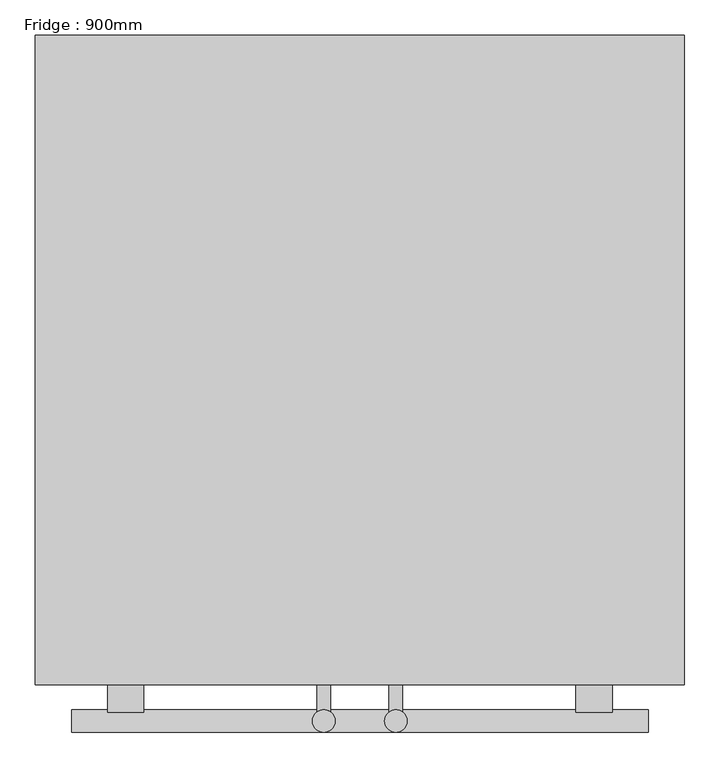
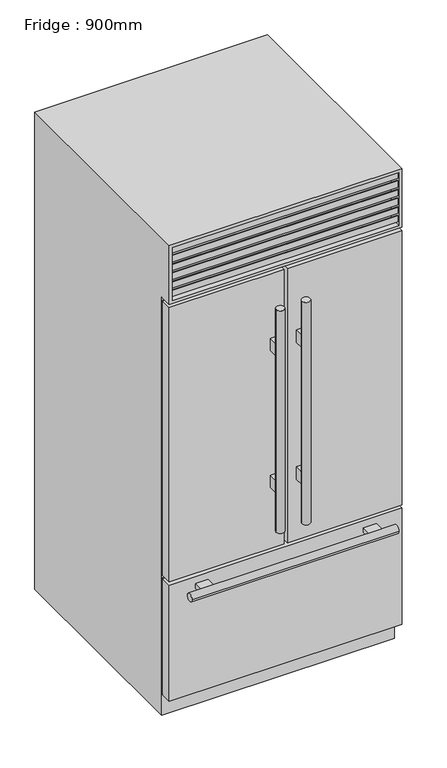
"""IFC4 building model written with IfcOpenShell, lengths in millimetres: proxy geometry, Fridge : 900mm."""

from ifc_helpers import new_model, si_unit, frame, origin, place, context, project, spatial, polyline, circle_curve, ellipse_curve, outline, extrude, faceted_brep, source, transform, mapped, element, save
from ifc_brep_helpers import plane_surface, cylinder_surface, advanced_brep


def fridge_900mm_2d12c2bd(model_context):
    return source(origin(), model_context, "Body", "SolidModel", [
        extrude(outline(polyline([(-457.2, -969.95), (-6.35, -969.95), (-6.35, -1014.4), (-457.2, -1014.4), (-457.2, -969.95)])), frame((0.0, 0.0, 584.2), z_axis=(0.0, 0.0, 1.0), x_axis=(1.0, 0.0, 0.0)), (0.0, 0.0, 1.0), 1139.825),
        extrude(outline(polyline([(6.35, -969.95), (457.2, -969.95), (457.2, -1014.4), (6.35, -1014.4), (6.35, -969.95)])), frame((0.0, 0.0, 584.2), z_axis=(0.0, 0.0, 1.0), x_axis=(1.0, 0.0, 0.0)), (0.0, 0.0, 1.0), 1139.825),
        extrude(outline(polyline([(-457.2, -969.95), (457.2, -969.95), (457.2, -1014.4), (-457.2, -1014.4), (-457.2, -969.95)])), frame((0.0, 0.0, 88.9), z_axis=(0.0, 0.0, 1.0), x_axis=(1.0, 0.0, 0.0)), (0.0, 0.0, 1.0), 482.6),
        faceted_brep([(457.2, -1014.4, 1981.2), (-457.2, -1014.4, 1981.2), (-457.2, -1014.4, 1736.725), (457.2, -1014.4, 1736.725), (444.5, -1014.4, 1968.5), (444.5, -1014.4, 1749.425), (-444.5, -1014.4, 1749.425), (-444.5, -1014.4, 1968.5), (457.2, -100.0, 1981.2), (-457.2, -100.0, 1981.2), (-457.2, -100.0, 0.0), (-457.2, -963.6, 0.0), (-457.2, -963.6, 1736.725), (457.2, -963.6, 1736.725), (457.2, -963.6, 0.0), (457.2, -100.0, 0.0), (-444.5, -963.6, 1968.5), (444.5, -963.6, 1968.5), (-444.5, -963.6, 1749.425), (444.5, -963.6, 1749.425)], [[[0, 1, 2, 3], [4, 5, 6, 7]], [[1, 0, 8, 9]], [[2, 1, 9, 10, 11, 12]], [[3, 2, 12, 13]], [[8, 0, 3, 13, 14, 15]], [[4, 7, 16, 17]], [[7, 6, 18, 16]], [[6, 5, 19, 18]], [[5, 4, 17, 19]], [[15, 14, 11, 10]], [[9, 8, 15, 10]], [[17, 16, 18, 19]], [[11, 14, 13, 12]]]),
        extrude(outline(polyline([(-963.6, 1749.425), (-1011.225, 1762.1860803), (-1011.225, 1787.5860803), (-1008.05, 1787.5860803), (-1008.05, 1764.7368938), (-963.6, 1752.8265522), (-963.6, 1749.425)])), frame((-444.5, 0.0, 0.0), z_axis=(1.0, 0.0, 0.0), x_axis=(0.0, 1.0, 0.0)), (0.0, 0.0, 1.0), 889.0),
        extrude(outline(polyline([(-963.6, 1785.6077839), (-1011.225, 1798.3688642), (-1011.225, 1823.7688642), (-1008.05, 1823.7688642), (-1008.05, 1800.9196777), (-963.6, 1789.0093361), (-963.6, 1785.6077839)])), frame((-444.5, 0.0, 0.0), z_axis=(1.0, 0.0, 0.0), x_axis=(0.0, 1.0, 0.0)), (0.0, 0.0, 1.0), 889.0),
        extrude(outline(polyline([(-963.6, 1821.7905679), (-1011.225, 1834.5516482), (-1011.225, 1859.9516482), (-1008.05, 1859.9516482), (-1008.05, 1837.1024616), (-963.6, 1825.19212), (-963.6, 1821.7905679)])), frame((-444.5, 0.0, 0.0), z_axis=(1.0, 0.0, 0.0), x_axis=(0.0, 1.0, 0.0)), (0.0, 0.0, 1.0), 889.0),
        extrude(outline(polyline([(-963.6, 1857.9733518), (-1011.225, 1870.7344321), (-1011.225, 1896.1344321), (-1008.05, 1896.1344321), (-1008.05, 1873.2852456), (-963.6, 1861.374904), (-963.6, 1857.9733518)])), frame((-444.5, 0.0, 0.0), z_axis=(1.0, 0.0, 0.0), x_axis=(0.0, 1.0, 0.0)), (0.0, 0.0, 1.0), 889.0),
        extrude(outline(polyline([(-963.6, 1894.1561358), (-1011.225, 1906.9172161), (-1011.225, 1932.3172161), (-1008.05, 1932.3172161), (-1008.05, 1909.4680295), (-963.6, 1897.5576879), (-963.6, 1894.1561358)])), frame((-444.5, 0.0, 0.0), z_axis=(1.0, 0.0, 0.0), x_axis=(0.0, 1.0, 0.0)), (0.0, 0.0, 1.0), 889.0),
        extrude(outline(polyline([(-963.6, 1930.3389197), (-1011.225, 1943.1), (-1011.225, 1968.5), (-1008.05, 1968.5), (-1008.05, 1945.6508135), (-963.6, 1933.7404719), (-963.6, 1930.3389197)])), frame((-444.5, 0.0, 0.0), z_axis=(1.0, 0.0, 0.0), x_axis=(0.0, 1.0, 0.0)), (0.0, 0.0, 1.0), 889.0),
        advanced_brep(
        [(-450.85, -963.6, 565.15), (-450.85, -969.95, 565.15), (-450.85, -969.95, 95.25), (-450.85, -963.6, 95.25), (-454.025, -969.95, 568.325), (-454.025, -963.6, 568.325), (-454.025, -963.6, 92.075), (-454.025, -969.95, 92.075), (450.85, -969.95, 95.25), (450.85, -963.6, 95.25), (454.025, -963.6, 92.075), (454.025, -969.95, 92.075), (450.85, -969.95, 565.15), (450.85, -963.6, 565.15), (454.025, -963.6, 568.325), (454.025, -969.95, 568.325)],
        [
            (0, 1),
            (1, 2),
            (2, 3),
            (3, 0),
            (4, 5, ellipse_curve(frame((-454.025, -966.775, 568.325), z_axis=(-0.7071067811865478, 0.0, -0.7071067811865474), x_axis=(-0.7071067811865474, 0.0, 0.7071067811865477)), 4.4901281, 3.175)),
            (5, 6),
            (6, 7, ellipse_curve(frame((-454.025, -966.775, 92.075), z_axis=(-0.7071067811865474, 0.0, 0.7071067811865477), x_axis=(0.7071067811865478, 0.0, 0.7071067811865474)), 4.4901281, 3.175)),
            (7, 4),
            (2, 8),
            (8, 9),
            (9, 3),
            (6, 10),
            (10, 11, ellipse_curve(frame((454.025, -966.775, 92.075), z_axis=(-0.7071067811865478, 0.0, -0.7071067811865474), x_axis=(-0.7071067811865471, 0.0, 0.7071067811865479)), 4.4901281, 3.175)),
            (11, 7),
            (8, 12),
            (12, 13),
            (13, 9),
            (10, 14),
            (14, 15, ellipse_curve(frame((454.025, -966.775, 568.325), z_axis=(0.7071067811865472, 0.0, -0.7071067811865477), x_axis=(-0.7071067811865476, 0.0, -0.7071067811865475)), 4.4901281, 3.175)),
            (15, 11),
            (12, 1),
            (0, 13),
            (5, 14),
            (4, 15),
        ],
        [
            plane_surface(frame((-450.85, -969.95, 565.15), z_axis=(1.0, 0.0, 0.0), x_axis=(0.0, 0.0, -1.0))),
            cylinder_surface(frame((-454.025, -966.775, 571.5), z_axis=(0.0, 0.0, 1.0), x_axis=(0.0, -1.0, 0.0)), 3.175),
            plane_surface(frame((-450.85, -969.95, 95.25), z_axis=(0.0, 0.0, 1.0), x_axis=(1.0, 0.0, 0.0))),
            cylinder_surface(frame((-457.2, -966.775, 92.075), z_axis=(-1.0, 0.0, 0.0), x_axis=(0.0, -1.0, 0.0)), 3.175),
            plane_surface(frame((450.85, -969.95, 95.25), z_axis=(-1.0, 0.0, 0.0), x_axis=(0.0, 0.0, 1.0))),
            cylinder_surface(frame((454.025, -966.775, 88.9), z_axis=(0.0, 0.0, -1.0), x_axis=(0.0, -1.0, 0.0)), 3.175),
            plane_surface(frame((450.85, -969.95, 565.15), z_axis=(0.0, 0.0, -1.0), x_axis=(-1.0, 0.0, 0.0))),
            plane_surface(frame((450.85, -963.6, 565.15), z_axis=(0.0, 1.0, 0.0), x_axis=(-1.0, 0.0, 0.0))),
            cylinder_surface(frame((457.2, -966.775, 568.325), z_axis=(1.0, 0.0, 0.0), x_axis=(0.0, -1.0, 0.0)), 3.175),
            plane_surface(frame((454.025, -969.95, 568.325), z_axis=(0.0, -1.0, 0.0), x_axis=(-1.0, 0.0, 0.0))),
        ],
        [
            (0, [[1, 2, 3, 4]]),
            (1, [[5, 6, 7, 8]]),
            (2, [[-3, 9, 10, 11]]),
            (3, [[-7, 12, 13, 14]]),
            (4, [[-10, 15, 16, 17]]),
            (5, [[-13, 18, 19, 20]]),
            (6, [[-16, 21, -1, 22]]),
            (7, [[23, -18, -12, -6], [-11, -17, -22, -4]]),
            (8, [[-19, -23, -5, 24]]),
            (9, [[-14, -20, -24, -8], [-21, -15, -9, -2]]),
        ],
    ),
        advanced_brep(
        [(12.7, -963.6, 1717.675), (12.7, -969.95, 1717.675), (12.7, -969.95, 590.55), (12.7, -963.6, 590.55), (9.525, -969.95, 1720.85), (9.525, -963.6, 1720.85), (9.525, -963.6, 587.375), (9.525, -969.95, 587.375), (450.85, -969.95, 590.55), (450.85, -963.6, 590.55), (454.025, -963.6, 587.375), (454.025, -969.95, 587.375), (450.85, -969.95, 1717.675), (450.85, -963.6, 1717.675), (454.025, -963.6, 1720.85), (454.025, -969.95, 1720.85)],
        [
            (0, 1),
            (1, 2),
            (2, 3),
            (3, 0),
            (4, 5, ellipse_curve(frame((9.525, -966.775, 1720.85), z_axis=(-0.7071067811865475, 0.0, -0.7071067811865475), x_axis=(-0.7071067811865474, 0.0, 0.7071067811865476)), 4.4901281, 3.175)),
            (5, 6),
            (6, 7, ellipse_curve(frame((9.525, -966.775, 587.375), z_axis=(-0.7071067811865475, 0.0, 0.7071067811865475), x_axis=(0.7071067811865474, 0.0, 0.7071067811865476)), 4.4901281, 3.175)),
            (7, 4),
            (2, 8),
            (8, 9),
            (9, 3),
            (6, 10),
            (10, 11, ellipse_curve(frame((454.025, -966.775, 587.375), z_axis=(-0.7071067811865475, 0.0, -0.7071067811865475), x_axis=(-0.7071067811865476, 0.0, 0.7071067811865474)), 4.4901281, 3.175)),
            (11, 7),
            (8, 12),
            (12, 13),
            (13, 9),
            (10, 14),
            (14, 15, ellipse_curve(frame((454.025, -966.775, 1720.85), z_axis=(0.7071067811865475, 0.0, -0.7071067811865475), x_axis=(-0.7071067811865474, 0.0, -0.7071067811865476)), 4.4901281, 3.175)),
            (15, 11),
            (12, 1),
            (0, 13),
            (5, 14),
            (4, 15),
        ],
        [
            plane_surface(frame((12.7, -969.95, 1717.675), z_axis=(1.0, 0.0, 0.0), x_axis=(0.0, 0.0, -1.0))),
            cylinder_surface(frame((9.525, -966.775, 1724.025), z_axis=(0.0, 0.0, 1.0), x_axis=(0.0, -1.0, 0.0)), 3.175),
            plane_surface(frame((12.7, -969.95, 590.55), z_axis=(0.0, 0.0, 1.0), x_axis=(1.0, 0.0, 0.0))),
            cylinder_surface(frame((6.35, -966.775, 587.375), z_axis=(-1.0, 0.0, 0.0), x_axis=(0.0, -1.0, 0.0)), 3.175),
            plane_surface(frame((450.85, -969.95, 590.55), z_axis=(-1.0, 0.0, 0.0), x_axis=(0.0, 0.0, 1.0))),
            cylinder_surface(frame((454.025, -966.775, 584.2), z_axis=(0.0, 0.0, -1.0), x_axis=(0.0, -1.0, 0.0)), 3.175),
            plane_surface(frame((450.85, -969.95, 1717.675), z_axis=(0.0, 0.0, -1.0), x_axis=(-1.0, 0.0, 0.0))),
            plane_surface(frame((450.85, -963.6, 1717.675), z_axis=(0.0, 1.0, 0.0), x_axis=(-1.0, 0.0, 0.0))),
            cylinder_surface(frame((457.2, -966.775, 1720.85), z_axis=(1.0, 0.0, 0.0), x_axis=(0.0, -1.0, 0.0)), 3.175),
            plane_surface(frame((454.025, -969.95, 1720.85), z_axis=(0.0, -1.0, 0.0), x_axis=(-1.0, 0.0, 0.0))),
        ],
        [
            (0, [[1, 2, 3, 4]]),
            (1, [[5, 6, 7, 8]]),
            (2, [[-3, 9, 10, 11]]),
            (3, [[-7, 12, 13, 14]]),
            (4, [[-10, 15, 16, 17]]),
            (5, [[-13, 18, 19, 20]]),
            (6, [[-16, 21, -1, 22]]),
            (7, [[23, -18, -12, -6], [-11, -17, -22, -4]]),
            (8, [[-19, -23, -5, 24]]),
            (9, [[-14, -20, -24, -8], [-21, -15, -9, -2]]),
        ],
    ),
        advanced_brep(
        [(-450.85, -963.6, 1717.675), (-450.85, -969.95, 1717.675), (-450.85, -969.95, 590.55), (-450.85, -963.6, 590.55), (-454.025, -969.95, 1720.85), (-454.025, -963.6, 1720.85), (-454.025, -963.6, 587.375), (-454.025, -969.95, 587.375), (-12.7, -969.95, 590.55), (-12.7, -963.6, 590.55), (-9.525, -963.6, 587.375), (-9.525, -969.95, 587.375), (-12.7, -969.95, 1717.675), (-12.7, -963.6, 1717.675), (-9.525, -963.6, 1720.85), (-9.525, -969.95, 1720.85)],
        [
            (0, 1),
            (1, 2),
            (2, 3),
            (3, 0),
            (4, 5, ellipse_curve(frame((-454.025, -966.775, 1720.85), z_axis=(-0.7071067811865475, 0.0, -0.7071067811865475), x_axis=(-0.7071067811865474, 0.0, 0.7071067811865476)), 4.4901281, 3.175)),
            (5, 6),
            (6, 7, ellipse_curve(frame((-454.025, -966.775, 587.375), z_axis=(-0.7071067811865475, 0.0, 0.7071067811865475), x_axis=(0.7071067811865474, 0.0, 0.7071067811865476)), 4.4901281, 3.175)),
            (7, 4),
            (2, 8),
            (8, 9),
            (9, 3),
            (6, 10),
            (10, 11, ellipse_curve(frame((-9.525, -966.775, 587.375), z_axis=(-0.7071067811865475, 0.0, -0.7071067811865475), x_axis=(-0.7071067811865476, 0.0, 0.7071067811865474)), 4.4901281, 3.175)),
            (11, 7),
            (8, 12),
            (12, 13),
            (13, 9),
            (10, 14),
            (14, 15, ellipse_curve(frame((-9.525, -966.775, 1720.85), z_axis=(0.7071067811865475, 0.0, -0.7071067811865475), x_axis=(-0.7071067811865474, 0.0, -0.7071067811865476)), 4.4901281, 3.175)),
            (15, 11),
            (12, 1),
            (0, 13),
            (5, 14),
            (4, 15),
        ],
        [
            plane_surface(frame((-450.85, -969.95, 1717.675), z_axis=(1.0, 0.0, 0.0), x_axis=(0.0, 0.0, -1.0))),
            cylinder_surface(frame((-454.025, -966.775, 1724.025), z_axis=(0.0, 0.0, 1.0), x_axis=(0.0, -1.0, 0.0)), 3.175),
            plane_surface(frame((-450.85, -969.95, 590.55), z_axis=(0.0, 0.0, 1.0), x_axis=(1.0, 0.0, 0.0))),
            cylinder_surface(frame((-457.2, -966.775, 587.375), z_axis=(-1.0, 0.0, 0.0), x_axis=(0.0, -1.0, 0.0)), 3.175),
            plane_surface(frame((-12.7, -969.95, 590.55), z_axis=(-1.0, 0.0, 0.0), x_axis=(0.0, 0.0, 1.0))),
            cylinder_surface(frame((-9.525, -966.775, 584.2), z_axis=(0.0, 0.0, -1.0), x_axis=(0.0, -1.0, 0.0)), 3.175),
            plane_surface(frame((-12.7, -969.95, 1717.675), z_axis=(0.0, 0.0, -1.0), x_axis=(-1.0, 0.0, 0.0))),
            plane_surface(frame((-12.7, -963.6, 1717.675), z_axis=(0.0, 1.0, 0.0), x_axis=(-1.0, 0.0, 0.0))),
            cylinder_surface(frame((-6.35, -966.775, 1720.85), z_axis=(1.0, 0.0, 0.0), x_axis=(0.0, -1.0, 0.0)), 3.175),
            plane_surface(frame((-9.525, -969.95, 1720.85), z_axis=(0.0, -1.0, 0.0), x_axis=(-1.0, 0.0, 0.0))),
        ],
        [
            (0, [[1, 2, 3, 4]]),
            (1, [[5, 6, 7, 8]]),
            (2, [[-3, 9, 10, 11]]),
            (3, [[-7, 12, 13, 14]]),
            (4, [[-10, 15, 16, 17]]),
            (5, [[-13, 18, 19, 20]]),
            (6, [[-16, 21, -1, 22]]),
            (7, [[23, -18, -12, -6], [-11, -17, -22, -4]]),
            (8, [[-19, -23, -5, 24]]),
            (9, [[-14, -20, -24, -8], [-21, -15, -9, -2]]),
        ],
    ),
        advanced_brep(
        [(-304.8, -1014.4, 542.925), (-304.8, -1014.4, 523.875), (-355.6, -1014.4, 523.875), (-355.6, -1014.4, 542.925), (304.8, -1014.4, 542.925), (355.6, -1014.4, 542.925), (355.6, -1014.4, 523.875), (304.8, -1014.4, 523.875), (-304.8, -1052.8741958, 542.925), (-304.8, -1049.6991958, 533.4), (-304.8, -1052.8741958, 523.875), (-355.6, -1052.8741958, 523.875), (-355.6, -1049.6991958, 533.4), (-355.6, -1052.8741958, 542.925), (304.8, -1052.8741958, 542.925), (355.6, -1052.8741958, 542.925), (355.6, -1049.6991958, 533.4), (355.6, -1052.8741958, 523.875), (304.8, -1052.8741958, 523.875), (304.8, -1049.6991958, 533.4), (406.4, -1081.4491958, 533.4), (406.4, -1049.6991958, 533.4), (-406.4, -1081.4491958, 533.4), (-406.4, -1049.6991958, 533.4)],
        [
            (0, 1),
            (1, 2),
            (2, 3),
            (3, 0),
            (4, 5),
            (5, 6),
            (6, 7),
            (7, 4),
            (0, 8),
            (8, 9, circle_curve(frame((-304.8, -1065.5741958, 533.4), z_axis=(-1.0, 0.0, 0.0), x_axis=(0.0, 1.0, 0.0)), 15.875)),
            (9, 10, circle_curve(frame((-304.8, -1065.5741958, 533.4), z_axis=(-1.0, 0.0, 0.0), x_axis=(0.0, 1.0, 0.0)), 15.875)),
            (10, 1),
            (10, 11),
            (11, 2),
            (11, 12, circle_curve(frame((-355.6, -1065.5741958, 533.4), z_axis=(1.0, 0.0, 0.0), x_axis=(0.0, 1.0, 0.0)), 15.875)),
            (12, 13, circle_curve(frame((-355.6, -1065.5741958, 533.4), z_axis=(1.0, 0.0, 0.0), x_axis=(0.0, 1.0, 0.0)), 15.875)),
            (13, 3),
            (13, 8),
            (4, 14),
            (14, 15),
            (15, 5),
            (15, 16, circle_curve(frame((355.6, -1065.5741958, 533.4), z_axis=(-1.0, 0.0, 0.0), x_axis=(0.0, 1.0, 0.0)), 15.875)),
            (16, 17, circle_curve(frame((355.6, -1065.5741958, 533.4), z_axis=(-1.0, 0.0, 0.0), x_axis=(0.0, 1.0, 0.0)), 15.875)),
            (17, 6),
            (17, 18),
            (18, 7),
            (18, 19, circle_curve(frame((304.8, -1065.5741958, 533.4), z_axis=(1.0, 0.0, 0.0), x_axis=(0.0, 1.0, 0.0)), 15.875)),
            (19, 14, circle_curve(frame((304.8, -1065.5741958, 533.4), z_axis=(1.0, 0.0, 0.0), x_axis=(0.0, 1.0, 0.0)), 15.875)),
            (20, 21, circle_curve(frame((406.4, -1065.5741958, 533.4), z_axis=(1.0, 0.0, 0.0), x_axis=(0.0, 1.0, 0.0)), 15.875)),
            (21, 20, circle_curve(frame((406.4, -1065.5741958, 533.4), z_axis=(1.0, 0.0, 0.0), x_axis=(0.0, 1.0, 0.0)), 15.875)),
            (22, 23, circle_curve(frame((-406.4, -1065.5741958, 533.4), z_axis=(-1.0, 0.0, 0.0), x_axis=(0.0, 1.0, 0.0)), 15.875)),
            (23, 22, circle_curve(frame((-406.4, -1065.5741958, 533.4), z_axis=(-1.0, 0.0, 0.0), x_axis=(0.0, 1.0, 0.0)), 15.875)),
            (20, 22),
            (23, 12),
            (9, 19),
            (16, 21),
        ],
        [
            plane_surface(frame((-304.8, -1014.4, 542.925), z_axis=(0.0, 1.0, 0.0), x_axis=(0.0, 0.0, -1.0))),
            plane_surface(frame((-304.8, -1014.4, 542.925), z_axis=(1.0, 0.0, 0.0), x_axis=(0.0, -1.0, 0.0))),
            plane_surface(frame((-304.8, -1014.4, 523.875), z_axis=(0.0, 0.0, -1.0), x_axis=(0.0, -1.0, 0.0))),
            plane_surface(frame((-355.6, -1014.4, 523.875), z_axis=(-1.0, 0.0, 0.0), x_axis=(0.0, -1.0, 0.0))),
            plane_surface(frame((-355.6, -1014.4, 542.925), z_axis=(0.0, 0.0, 1.0), x_axis=(0.0, -1.0, 0.0))),
            plane_surface(frame((304.8, -1014.4, 542.925), z_axis=(0.0, 0.0, 1.0), x_axis=(0.0, -1.0, 0.0))),
            plane_surface(frame((355.6, -1014.4, 542.925), z_axis=(1.0, 0.0, 0.0), x_axis=(0.0, -1.0, 0.0))),
            plane_surface(frame((355.6, -1014.4, 523.875), z_axis=(0.0, 0.0, -1.0), x_axis=(0.0, -1.0, 0.0))),
            plane_surface(frame((304.8, -1014.4, 523.875), z_axis=(-1.0, 0.0, 0.0), x_axis=(0.0, -1.0, 0.0))),
            plane_surface(frame((406.4, -1049.6991958, 533.4), z_axis=(1.0, 0.0, 0.0), x_axis=(0.0, 0.0, 1.0))),
            plane_surface(frame((-406.4, -1049.6991958, 533.4), z_axis=(-1.0, 0.0, 0.0), x_axis=(0.0, 0.0, -1.0))),
            cylinder_surface(frame((-406.4, -1065.5741958, 533.4), z_axis=(1.0, 0.0, 0.0), x_axis=(0.0, 1.0, 0.0)), 15.875),
        ],
        [
            (0, [[1, 2, 3, 4]]),
            (0, [[5, 6, 7, 8]]),
            (1, [[-1, 9, 10, 11, 12]]),
            (2, [[-2, -12, 13, 14]]),
            (3, [[-3, -14, 15, 16, 17]]),
            (4, [[-4, -17, 18, -9]]),
            (5, [[-5, 19, 20, 21]]),
            (6, [[-6, -21, 22, 23, 24]]),
            (7, [[-7, -24, 25, 26]]),
            (8, [[-8, -26, 27, 28, -19]]),
            (9, [[29, 30]]),
            (10, [[31, 32]]),
            (11, [[-29, 33, -32, 34, -15, -13, -11, 35, -27, -25, -23, 36]]),
            (11, [[-30, -36, -22, -20, -28, -35, -10, -18, -16, -34, -31, -33]]),
        ],
    ),
        advanced_brep(
        [(34.925, -1065.5741958, 1609.725), (66.675, -1065.5741958, 1609.725), (34.925, -1065.5741958, 685.8), (66.675, -1065.5741958, 685.8), (60.325, -1052.8741958, 1406.525), (60.325, -1052.8741958, 1457.325), (41.275, -1052.8741958, 1457.325), (41.275, -1052.8741958, 1406.525), (60.325, -1052.8741958, 838.2), (60.325, -1052.8741958, 889.0), (41.275, -1052.8741958, 889.0), (41.275, -1052.8741958, 838.2), (60.325, -1014.4, 1457.325), (60.325, -1014.4, 1406.525), (41.275, -1014.4, 1406.525), (41.275, -1014.4, 1457.325), (60.325, -1014.4, 889.0), (60.325, -1014.4, 838.2), (41.275, -1014.4, 838.2), (41.275, -1014.4, 889.0)],
        [
            (0, 1, circle_curve(frame((50.8, -1065.5741958, 1609.725), z_axis=(0.0, 0.0, 1.0), x_axis=(1.0, 0.0, 0.0)), 15.875)),
            (1, 0, circle_curve(frame((50.8, -1065.5741958, 1609.725), z_axis=(0.0, 0.0, 1.0), x_axis=(1.0, 0.0, 0.0)), 15.875)),
            (2, 3, circle_curve(frame((50.8, -1065.5741958, 685.8), z_axis=(0.0, 0.0, -1.0), x_axis=(1.0, 0.0, 0.0)), 15.875)),
            (3, 2, circle_curve(frame((50.8, -1065.5741958, 685.8), z_axis=(0.0, 0.0, -1.0), x_axis=(1.0, 0.0, 0.0)), 15.875)),
            (0, 2),
            (3, 1),
            (4, 5),
            (5, 6, circle_curve(frame((50.8, -1065.5741958, 1457.325), z_axis=(0.0, 0.0, 1.0), x_axis=(1.0, 0.0, 0.0)), 15.875)),
            (6, 7),
            (7, 4, circle_curve(frame((50.8, -1065.5741958, 1406.525), z_axis=(0.0, 0.0, -1.0), x_axis=(1.0, 0.0, 0.0)), 15.875)),
            (8, 9),
            (9, 10, circle_curve(frame((50.8, -1065.5741958, 889.0), z_axis=(0.0, 0.0, 1.0), x_axis=(1.0, 0.0, 0.0)), 15.875)),
            (10, 11),
            (11, 8, circle_curve(frame((50.8, -1065.5741958, 838.2), z_axis=(0.0, 0.0, -1.0), x_axis=(1.0, 0.0, 0.0)), 15.875)),
            (12, 13),
            (13, 14),
            (14, 15),
            (15, 12),
            (16, 17),
            (17, 18),
            (18, 19),
            (19, 16),
            (12, 5),
            (4, 13),
            (7, 14),
            (6, 15),
            (16, 9),
            (8, 17),
            (11, 18),
            (10, 19),
        ],
        [
            plane_surface(frame((66.675, -1065.5741958, 1609.725), z_axis=(0.0, 0.0, 1.0), x_axis=(0.0, 1.0, 0.0))),
            plane_surface(frame((66.675, -1065.5741958, 685.8), z_axis=(0.0, 0.0, -1.0), x_axis=(0.0, -1.0, 0.0))),
            cylinder_surface(frame((50.8, -1065.5741958, 685.8), z_axis=(0.0, 0.0, 1.0), x_axis=(1.0, 0.0, 0.0)), 15.875),
            plane_surface(frame((60.325, -1014.4, 1457.325), z_axis=(0.0, 1.0, 0.0), x_axis=(0.0, 0.0, -1.0))),
            plane_surface(frame((60.325, -1014.4, 1457.325), z_axis=(1.0, 0.0, 0.0), x_axis=(0.0, -1.0, 0.0))),
            plane_surface(frame((60.325, -1014.4, 1406.525), z_axis=(0.0, 0.0, -1.0), x_axis=(0.0, -1.0, 0.0))),
            plane_surface(frame((41.275, -1014.4, 1406.525), z_axis=(-1.0, 0.0, 0.0), x_axis=(0.0, -1.0, 0.0))),
            plane_surface(frame((41.275, -1014.4, 1457.325), z_axis=(0.0, 0.0, 1.0), x_axis=(0.0, -1.0, 0.0))),
            plane_surface(frame((60.325, -1014.4, 889.0), z_axis=(1.0, 0.0, 0.0), x_axis=(0.0, -1.0, 0.0))),
            plane_surface(frame((60.325, -1014.4, 838.2), z_axis=(0.0, 0.0, -1.0), x_axis=(0.0, -1.0, 0.0))),
            plane_surface(frame((41.275, -1014.4, 838.2), z_axis=(-1.0, 0.0, 0.0), x_axis=(0.0, -1.0, 0.0))),
            plane_surface(frame((41.275, -1014.4, 889.0), z_axis=(0.0, 0.0, 1.0), x_axis=(0.0, -1.0, 0.0))),
        ],
        [
            (0, [[1, 2]]),
            (1, [[3, 4]]),
            (2, [[-1, 5, -4, 6]]),
            (2, [[-2, -6, -3, -5], [7, 8, 9, 10], [11, 12, 13, 14]]),
            (3, [[15, 16, 17, 18]]),
            (3, [[19, 20, 21, 22]]),
            (4, [[-15, 23, -7, 24]]),
            (5, [[-16, -24, -10, 25]]),
            (6, [[-17, -25, -9, 26]]),
            (7, [[-18, -26, -8, -23]]),
            (8, [[-19, 27, -11, 28]]),
            (9, [[-20, -28, -14, 29]]),
            (10, [[-21, -29, -13, 30]]),
            (11, [[-22, -30, -12, -27]]),
        ],
    ),
        advanced_brep(
        [(-41.275, -1014.4, 1457.325), (-41.275, -1014.4, 1406.525), (-60.325, -1014.4, 1406.525), (-60.325, -1014.4, 1457.325), (-41.275, -1014.4, 889.0), (-41.275, -1014.4, 838.2), (-60.325, -1014.4, 838.2), (-60.325, -1014.4, 889.0), (-41.275, -1052.8741958, 1457.325), (-41.275, -1052.8741958, 1406.525), (-60.325, -1052.8741958, 1406.525), (-60.325, -1052.8741958, 1457.325), (-41.275, -1052.8741958, 889.0), (-41.275, -1052.8741958, 838.2), (-60.325, -1052.8741958, 838.2), (-60.325, -1052.8741958, 889.0), (-66.675, -1065.5741958, 1609.725), (-34.925, -1065.5741958, 1609.725), (-66.675, -1065.5741958, 685.8), (-34.925, -1065.5741958, 685.8)],
        [
            (0, 1),
            (1, 2),
            (2, 3),
            (3, 0),
            (4, 5),
            (5, 6),
            (6, 7),
            (7, 4),
            (0, 8),
            (8, 9),
            (9, 1),
            (9, 10, circle_curve(frame((-50.8, -1065.5741958, 1406.525), z_axis=(0.0, 0.0, 1.0), x_axis=(1.0, 0.0, 0.0)), 15.875)),
            (10, 2),
            (10, 11),
            (11, 3),
            (11, 8, circle_curve(frame((-50.8, -1065.5741958, 1457.325), z_axis=(0.0, 0.0, -1.0), x_axis=(1.0, 0.0, 0.0)), 15.875)),
            (4, 12),
            (12, 13),
            (13, 5),
            (13, 14, circle_curve(frame((-50.8, -1065.5741958, 838.2), z_axis=(0.0, 0.0, 1.0), x_axis=(1.0, 0.0, 0.0)), 15.875)),
            (14, 6),
            (14, 15),
            (15, 7),
            (15, 12, circle_curve(frame((-50.8, -1065.5741958, 889.0), z_axis=(0.0, 0.0, -1.0), x_axis=(1.0, 0.0, 0.0)), 15.875)),
            (16, 17, circle_curve(frame((-50.8, -1065.5741958, 1609.725), z_axis=(0.0, 0.0, 1.0), x_axis=(1.0, 0.0, 0.0)), 15.875)),
            (17, 16, circle_curve(frame((-50.8, -1065.5741958, 1609.725), z_axis=(0.0, 0.0, 1.0), x_axis=(1.0, 0.0, 0.0)), 15.875)),
            (18, 19, circle_curve(frame((-50.8, -1065.5741958, 685.8), z_axis=(0.0, 0.0, -1.0), x_axis=(1.0, 0.0, 0.0)), 15.875)),
            (19, 18, circle_curve(frame((-50.8, -1065.5741958, 685.8), z_axis=(0.0, 0.0, -1.0), x_axis=(1.0, 0.0, 0.0)), 15.875)),
            (16, 18),
            (19, 17),
        ],
        [
            plane_surface(frame((-41.275, -1014.4, 1457.325), z_axis=(0.0, 1.0, 0.0), x_axis=(0.0, 0.0, -1.0))),
            plane_surface(frame((-41.275, -1014.4, 1457.325), z_axis=(1.0, 0.0, 0.0), x_axis=(0.0, -1.0, 0.0))),
            plane_surface(frame((-41.275, -1014.4, 1406.525), z_axis=(0.0, 0.0, -1.0), x_axis=(0.0, -1.0, 0.0))),
            plane_surface(frame((-60.325, -1014.4, 1406.525), z_axis=(-1.0, 0.0, 0.0), x_axis=(0.0, -1.0, 0.0))),
            plane_surface(frame((-60.325, -1014.4, 1457.325), z_axis=(0.0, 0.0, 1.0), x_axis=(0.0, -1.0, 0.0))),
            plane_surface(frame((-41.275, -1014.4, 889.0), z_axis=(1.0, 0.0, 0.0), x_axis=(0.0, -1.0, 0.0))),
            plane_surface(frame((-41.275, -1014.4, 838.2), z_axis=(0.0, 0.0, -1.0), x_axis=(0.0, -1.0, 0.0))),
            plane_surface(frame((-60.325, -1014.4, 838.2), z_axis=(-1.0, 0.0, 0.0), x_axis=(0.0, -1.0, 0.0))),
            plane_surface(frame((-60.325, -1014.4, 889.0), z_axis=(0.0, 0.0, 1.0), x_axis=(0.0, -1.0, 0.0))),
            plane_surface(frame((-34.925, -1065.5741958, 1609.725), z_axis=(0.0, 0.0, 1.0), x_axis=(0.0, 1.0, 0.0))),
            plane_surface(frame((-34.925, -1065.5741958, 685.8), z_axis=(0.0, 0.0, -1.0), x_axis=(0.0, -1.0, 0.0))),
            cylinder_surface(frame((-50.8, -1065.5741958, 685.8), z_axis=(0.0, 0.0, 1.0), x_axis=(1.0, 0.0, 0.0)), 15.875),
        ],
        [
            (0, [[1, 2, 3, 4]]),
            (0, [[5, 6, 7, 8]]),
            (1, [[-1, 9, 10, 11]]),
            (2, [[-2, -11, 12, 13]]),
            (3, [[-3, -13, 14, 15]]),
            (4, [[-4, -15, 16, -9]]),
            (5, [[-5, 17, 18, 19]]),
            (6, [[-6, -19, 20, 21]]),
            (7, [[-7, -21, 22, 23]]),
            (8, [[-8, -23, 24, -17]]),
            (9, [[25, 26]]),
            (10, [[27, 28]]),
            (11, [[-25, 29, -28, 30]]),
            (11, [[-26, -30, -27, -29], [-10, -16, -14, -12], [-18, -24, -22, -20]]),
        ],
    ),
    ])


if __name__ == "__main__":
    model = new_model("IFC4")
    model_context = context("Model", 3, world=origin())
    ifc_project = project(units=[si_unit("LENGTHUNIT", "METRE", prefix="MILLI")], contexts=[model_context])
    site = spatial("IfcSite", under=ifc_project)
    building = spatial("IfcBuilding", under=site)
    placement = place(None, origin())
    fridge_900mm_shape = fridge_900mm_2d12c2bd(model_context)
    element("IfcBuildingElementProxy", 1, Name="Fridge : 900mm", ObjectType="Fridge : 900mm", at=placement, inside=building, context=model_context, shape_type="MappedRepresentation", body=[
        mapped(fridge_900mm_shape, transform((0.0, 0.0, 0.0), x_axis=(1.0, 0.0, 0.0), y_axis=(0.0, 1.0, 0.0), z_axis=(0.0, 0.0, 1.0))),
    ])
    save(model, "model.ifc")
